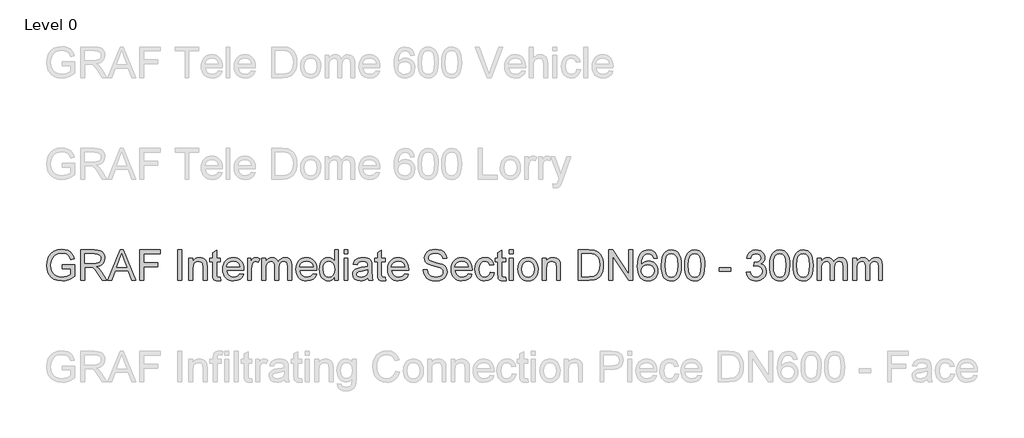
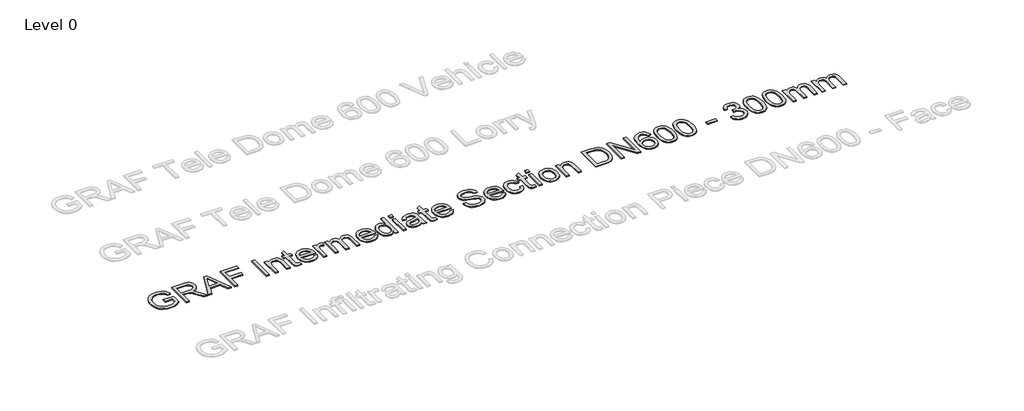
# One storey, part 17 of 25: 1 proxy.
"""IFC4 building model written with IfcOpenShell, lengths in millimetres."""

import ifcopenshell
import ifcopenshell.guid

model = None  # the IFC model being written
_history = None  # IfcOwnerHistory: only IFC2X3 demands one
_inside = {}  # id of a spatial element -> (the spatial element, [elements in it])
_under = {}  # id of a project, library or spatial element -> (it, [spatial elements below it])
_declared = {}  # id of a project -> (the project, [libraries it declares])
_typed = {}  # id of a type object -> (the type object, [elements of that type])
_made_of = {}  # id of a material, layer set ... -> (it, [elements and type objects made of it])


def new_model(schema):
    """Start an empty IFC model of exactly this schema.

    Asked for "IFC4X3", IfcOpenShell would pick the latest addendum, in which some entities
    have other attributes; the version numbers below select the first issue.
    IFC2X3 requires an IfcOwnerHistory on every rooted entity: one is made here for all.
    """
    global model, _history
    if schema == "IFC4X3":
        model = ifcopenshell.file(schema_version=(4, 3, 0, 0))
    else:
        model = ifcopenshell.file(schema=schema)
    _inside.clear()
    _under.clear()
    _declared.clear()
    _typed.clear()
    _made_of.clear()
    _history = None
    if model.schema == "IFC2X3":
        org = make("IfcOrganization", Name="unknown")
        user = make(
            "IfcPersonAndOrganization",
            ThePerson=make("IfcPerson", FamilyName="unknown"),
            TheOrganization=org,
        )
        app = make(
            "IfcApplication",
            ApplicationDeveloper=org,
            Version="unknown",
            ApplicationFullName="unknown",
            ApplicationIdentifier="unknown",
        )
        _history = make(
            "IfcOwnerHistory",
            OwningUser=user,
            OwningApplication=app,
            ChangeAction="ADDED",
            CreationDate=0,
        )
    return model


def make(cls, **values):
    """One entity of the class cls with the attributes given. An attribute that is None is left unset."""
    return model.create_entity(
        cls, **{name: value for name, value in values.items() if value is not None}
    )


def rooted(cls, **values):
    """An entity with a GlobalId (a new one), such as an element, a storey or a relation."""
    return make(cls, GlobalId=ifcopenshell.guid.new(), OwnerHistory=_history, **values)


def si_unit(unit_type, name, prefix=None):
    """IfcSIUnit, for example si_unit("LENGTHUNIT", "METRE", prefix="MILLI")."""
    return make("IfcSIUnit", UnitType=unit_type, Prefix=prefix, Name=name)


def assignment(units):
    """IfcUnitAssignment: the units of a project."""
    return None if units is None else make("IfcUnitAssignment", Units=units)


def point(xyz):
    """IfcCartesianPoint."""
    return None if xyz is None else make("IfcCartesianPoint", Coordinates=xyz)


def direction(xyz):
    """IfcDirection."""
    return None if xyz is None else make("IfcDirection", DirectionRatios=xyz)


def frame(location, z_axis=None, x_axis=None):
    """IfcAxis2Placement3D, a coordinate frame: its origin and axes. An axis left out is left unset."""
    return make(
        "IfcAxis2Placement3D",
        Location=point(location),
        Axis=direction(z_axis),
        RefDirection=direction(x_axis),
    )


def origin():
    """The frame at (0, 0, 0) with its axes left unset."""
    return frame((0.0, 0.0, 0.0))


def origin_with_axes():
    """The frame at (0, 0, 0) with the z axis (0, 0, 1) and the x axis (1, 0, 0) written out."""
    return frame((0.0, 0.0, 0.0), z_axis=(0.0, 0.0, 1.0), x_axis=(1.0, 0.0, 0.0))


def place(relative_to, where):
    """IfcLocalPlacement: puts the frame where relative to a parent placement (None: the world)."""
    return make(
        "IfcLocalPlacement", PlacementRelTo=relative_to, RelativePlacement=where
    )


def context(
    kind, dimensions, precision=None, world=None, true_north=None, identifier=None
):
    """IfcGeometricRepresentationContext, for example the 3D "Model" context."""
    return make(
        "IfcGeometricRepresentationContext",
        ContextIdentifier=identifier,
        ContextType=kind,
        CoordinateSpaceDimension=dimensions,
        Precision=precision,
        WorldCoordinateSystem=world,
        TrueNorth=true_north,
    )


def project(units=None, contexts=None):
    """IfcProject with its units and contexts."""
    return rooted(
        "IfcProject",
        Name="project",
        RepresentationContexts=contexts,
        UnitsInContext=assignment(units),
    )


def spatial(cls, under=None, at=None, **own):
    """A site, building, storey or space (cls), placed at a placement, below another one or the project."""
    s = rooted(cls, ObjectPlacement=at, **own)
    if under is not None:
        _under.setdefault(under.id(), (under, []))[1].append(s)
    return s


def polyline(points):
    """IfcPolyline through the points."""
    return make("IfcPolyline", Points=[point(p) for p in points])


def outline(outer, holes=None, kind="AREA"):
    """IfcArbitraryClosedProfileDef: a profile drawn as a closed curve; with holes, ...WithVoids."""
    if holes is None:
        return make("IfcArbitraryClosedProfileDef", ProfileType=kind, OuterCurve=outer)
    return make(
        "IfcArbitraryProfileDefWithVoids",
        ProfileType=kind,
        OuterCurve=outer,
        InnerCurves=holes,
    )


def extrude(swept, where, along, depth):
    """IfcExtrudedAreaSolid: the profile swept, set in the frame where, extruded along a direction by depth."""
    return make(
        "IfcExtrudedAreaSolid",
        SweptArea=swept,
        Position=where,
        ExtrudedDirection=direction(along),
        Depth=depth,
    )


def shape(context_of_items, identifier, shape_type, items):
    """IfcShapeRepresentation: the items that make up one representation, for example the "Body"."""
    return make(
        "IfcShapeRepresentation",
        ContextOfItems=context_of_items,
        RepresentationIdentifier=identifier,
        RepresentationType=shape_type,
        Items=items,
    )


def made_of(thing, what):
    """Note that an element or type object is made of a material, layer set ...; save() writes the relation."""
    if what is not None:
        _made_of.setdefault(what.id(), (what, []))[1].append(thing)
    return thing


def element(
    cls,
    number,
    at=None,
    inside=None,
    cuts=None,
    type_object=None,
    material=None,
    context=None,
    identifier="Body",
    shape_type=None,
    held_by="IfcProductDefinitionShape",
    body=None,
    shapes=None,
    **own,
):
    """One element of the class cls, such as IfcWall. Its Tag is "e" and its number.

    at: its placement. inside: the storey or other place that contains it. cuts: it is an
    opening in that element (IfcRelVoidsElement). A single representation is given by context,
    identifier, shape_type and body (its items); several are given by shapes. held_by: the class
    of the entity that holds the representations. save() writes the other relations.
    """
    e = rooted(cls, Tag="e%d" % number, ObjectPlacement=at, **own)
    if body is not None:
        shapes = [shape(context, identifier, shape_type, body)]
    if shapes is not None:
        e.Representation = make(held_by, Representations=shapes)
    if inside is not None:
        _inside.setdefault(inside.id(), (inside, []))[1].append(e)
    if cuts is not None:
        rooted(
            "IfcRelVoidsElement", RelatingBuildingElement=cuts, RelatedOpeningElement=e
        )
    if type_object is not None:
        _typed.setdefault(type_object.id(), (type_object, []))[1].append(e)
    return made_of(e, material)


def aggregate(whole, parts):
    """IfcRelAggregates: a whole, such as a stair, and the parts it consists of."""
    return rooted("IfcRelAggregates", RelatingObject=whole, RelatedObjects=parts)


def save(model, path):
    """Write the relations noted so far, then the file.

    IfcRelAggregates (storeys below a building ...), IfcRelContainedInSpatialStructure (elements
    in a storey), IfcRelDefinesByType, IfcRelAssociatesMaterial and IfcRelDeclares: one each for
    every whole, place, type object, material and project.
    """
    for whole, parts in _under.values():
        aggregate(whole, parts)
    for where, things in _inside.values():
        rooted(
            "IfcRelContainedInSpatialStructure",
            RelatedElements=things,
            RelatingStructure=where,
        )
    for kind, things in _typed.values():
        rooted("IfcRelDefinesByType", RelatedObjects=things, RelatingType=kind)
    for what, things in _made_of.values():
        rooted("IfcRelAssociatesMaterial", RelatedObjects=things, RelatingMaterial=what)
    for by, libraries in _declared.values():
        rooted("IfcRelDeclares", RelatingContext=by, RelatedDefinitions=libraries)
    model.write(path)


model = new_model("IFC4")

# Units and contexts
model_context = context("Model", 3, world=origin())
ifc_project = project(units=[si_unit("LENGTHUNIT", "METRE", prefix="MILLI")], contexts=[model_context])

# Site, building, storey
site = spatial("IfcSite", under=ifc_project)
building = spatial("IfcBuilding", under=site)
storey = spatial("IfcBuildingStorey", under=building, Name="Level 0", Elevation=0.0)

# Proxy
placement = place(None, origin())
element("IfcBuildingElementProxy", 1, Name="300mm Arial", ObjectType="300mm Arial", at=placement, inside=storey, context=model_context, shape_type="SweptSolid", body=[
    extrude(outline(polyline([(-15240.9940387, 3916.7454403), (-15240.9940387, 3954.4165566), (-15118.5629107, 3954.4165566), (-15118.5629107, 3841.7710897), (-15148.3153671, 3821.0777274), (-15179.0059225, 3806.2336889), (-15210.5610007, 3797.2941564), (-15242.9070251, 3794.3143123), (-15285.1674693, 3799.050793), (-15323.3628175, 3813.260235), (-15355.0926395, 3836.4459978), (-15377.9565055, 3868.1114405), (-15391.7796715, 3906.0952565), (-15396.3873935, 3948.2361391), (-15391.7980656, 3990.6805243), (-15378.0300819, 4030.1634594), (-15355.6536596, 4063.282036), (-15325.2390156, 4086.6333457), (-15288.1932987, 4100.4841028), (-15245.9236575, 4105.1010218), (-15214.8928112, 4102.4246803), (-15186.9889618, 4094.3956557), (-15163.4904994, 4081.5933623), (-15145.6758138, 4064.5972141), (-15132.4964413, 4042.5886738), (-15122.9039183, 4014.7492038), (-15157.6319786, 4004.9635427), (-15165.3850917, 4024.8199734), (-15174.8120678, 4039.8019677), (-15187.2832674, 4051.0959449), (-15204.169051, 4059.8883246), (-15224.3013932, 4065.5445103), (-15246.5122687, 4067.4299055), (-15272.5123287, 4065.3973575), (-15294.7415982, 4059.2997134), (-15313.1173039, 4049.9003284), (-15327.5566722, 4037.9625577), (-15346.9440533, 4008.9366683), (-15355.7732212, 3980.49939), (-15358.7162772, 3949.7812434), (-15355.175413, 3913.7563991), (-15344.5528204, 3884.1143073), (-15327.1703961, 3861.0665003), (-15303.3500369, 3844.8245102), (-15275.4737787, 3835.195199), (-15245.9236575, 3831.9854286), (-15219.831627, 3834.4042527), (-15194.3833899, 3841.6607251), (-15172.2828791, 3851.6579183), (-15156.234027, 3862.298905), (-15156.234027, 3916.7454403), (-15240.9940387, 3916.7454403)])), origin_with_axes(), (0.0, 0.0, 1.0), 10.0),
    extrude(outline(polyline([(-15057.3473467, 3799.0232018), (-15057.3473467, 4100.3921323), (-14927.4850024, 4100.3921323), (-14892.5821982, 4098.3595842), (-14867.1891434, 4092.2619402), (-14848.6294968, 4081.0047511), (-14834.2269167, 4063.4935682), (-14824.9838815, 4041.7793334), (-14821.9028698, 4017.912989), (-14827.0072325, 3988.2249119), (-14842.3203206, 3963.6136065), (-14853.9200997, 3953.5842236), (-14868.3019865, 3945.5689946), (-14905.4120827, 3935.5809984), (-14884.0013506, 3919.467767), (-14853.467145, 3880.6930048), (-14803.2144645, 3799.0232018), (-14846.9924219, 3799.0232018), (-14886.2086426, 3861.4895646), (-14914.5355562, 3902.8395009), (-14934.4379722, 3922.3740348), (-14952.3538253, 3929.5477337), (-14974.2060158, 3930.8721089), (-15019.6762304, 3930.8721089), (-15019.6762304, 3799.0232018), (-15057.3473467, 3799.0232018)]), holes=[polyline([(-15019.6762304, 3968.5432252), (-14935.3576771, 3968.5432252), (-14911.1418448, 3969.8767974), (-14892.3522719, 3973.8775141), (-14878.2072092, 3980.8120897), (-14867.9249074, 3990.9472387), (-14861.6617165, 4003.2069062), (-14859.5739861, 4016.5150374), (-14863.5563087, 4034.890743), (-14875.5032765, 4049.6979933), (-14896.058683, 4059.4652603), (-14925.8663217, 4062.721016), (-15019.6762304, 4062.721016), (-15019.6762304, 3968.5432252)])]), origin_with_axes(), (0.0, 0.0, 1.0), 10.0),
    extrude(outline(polyline([(-14791.0743586, 3799.0232018), (-14670.7769462, 4100.3921323), (-14638.6976362, 4100.3921323), (-14518.4002238, 3799.0232018), (-14558.2050557, 3799.0232018), (-14592.7123868, 3893.2009926), (-14716.835772, 3893.2009926), (-14751.2695268, 3799.0232018), (-14791.0743586, 3799.0232018)]), holes=[polyline([(-14703.003409, 3930.8721089), (-14606.4711735, 3930.8721089), (-14633.6208647, 4004.9635427), (-14654.7372912, 4062.721016), (-14673.499273, 4011.4382658), (-14703.003409, 3930.8721089)])]), origin_with_axes(), (0.0, 0.0, 1.0), 10.0),
    extrude(outline(polyline([(-14478.1539335, 3799.0232018), (-14478.1539335, 4100.3921323), (-14275.6716834, 4100.3921323), (-14275.6716834, 4062.721016), (-14440.4828172, 4062.721016), (-14440.4828172, 3973.2521147), (-14299.2161311, 3973.2521147), (-14299.2161311, 3935.5809984), (-14440.4828172, 3935.5809984), (-14440.4828172, 3799.0232018), (-14478.1539335, 3799.0232018)])), origin_with_axes(), (0.0, 0.0, 1.0), 10.0),
    extrude(outline(polyline([(-14101.4427705, 3799.0232018), (-14101.4427705, 4100.3921323), (-14063.7716542, 4100.3921323), (-14063.7716542, 3799.0232018), (-14101.4427705, 3799.0232018)])), origin_with_axes(), (0.0, 0.0, 1.0), 10.0),
    extrude(outline(polyline([(-13993.1383111, 3799.0232018), (-13993.1383111, 4020.3410101), (-13955.4671948, 4020.3410101), (-13955.4671948, 3989.4389225), (-13942.3797928, 4005.018725), (-13926.6620346, 4016.1471554), (-13908.3139201, 4022.8242136), (-13887.3354493, 4025.0498997), (-13868.7666056, 4023.2564749), (-13851.7612603, 4017.8762008), (-13837.5794094, 4009.5804618), (-13827.4810487, 3999.0406426), (-13816.1870714, 3971.3391284), (-13814.2005086, 3934.9188108), (-13814.2005086, 3799.0232018), (-13851.8716249, 3799.0232018), (-13851.8716249, 3929.8420393), (-13856.2126325, 3963.1721481), (-13862.2183061, 3973.0957649), (-13871.5533117, 3980.7936956), (-13883.5186736, 3985.7325114), (-13897.415416, 3987.3787834), (-13919.4791386, 3983.6815693), (-13938.2871056, 3972.5899271), (-13945.8033946, 3963.5354315), (-13951.1721725, 3951.1608009), (-13955.4671948, 3916.4511347), (-13955.4671948, 3799.0232018), (-13993.1383111, 3799.0232018)])), origin_with_axes(), (0.0, 0.0, 1.0), 10.0),
    extrude(outline(polyline([(-13682.3516016, 3830.4403242), (-13677.642712, 3797.9195558), (-13705.8224729, 3794.3143123), (-13723.9038729, 3795.8778108), (-13737.386748, 3800.5683062), (-13746.9148917, 3807.7971874), (-13753.1320974, 3816.9758432), (-13756.5534, 3832.7395867), (-13757.6938342, 3859.723731), (-13757.6938342, 3982.6698938), (-13785.9471714, 3982.6698938), (-13785.9471714, 4020.3410101), (-13757.6938342, 4020.3410101), (-13757.6938342, 4074.1253578), (-13720.0227179, 4096.2718539), (-13720.0227179, 4020.3410101), (-13682.3516016, 4020.3410101), (-13682.3516016, 3982.6698938), (-13720.0227179, 3982.6698938), (-13720.0227179, 3860.827377), (-13718.0361551, 3841.4032077), (-13711.5982202, 3834.5238144), (-13698.7591386, 3831.9854286), (-13682.3516016, 3830.4403242)])), origin_with_axes(), (0.0, 0.0, 1.0), 10.0),
    extrude(outline(polyline([(-13489.7285889, 3864.9476554), (-13452.7932366, 3860.2387658), (-13466.1013678, 3832.4084929), (-13487.3373559, 3811.6047661), (-13516.0229545, 3798.6369257), (-13551.6799169, 3794.3143123), (-13575.0542192, 3796.1790141), (-13595.8809386, 3801.7731197), (-13614.1600752, 3811.0966291), (-13629.8916291, 3824.1495421), (-13642.5421712, 3840.5685754), (-13651.5782727, 3859.9904455), (-13656.9999336, 3882.4151523), (-13658.8071539, 3907.842696), (-13656.9815395, 3934.1324631), (-13651.5046963, 3957.3044302), (-13642.3766243, 3977.3585975), (-13629.5973235, 3994.2949649), (-13613.9071564, 4007.7502488), (-13596.0464855, 4017.361166), (-13576.0153109, 4023.1277162), (-13553.8136325, 4025.0498997), (-13532.3270247, 4023.1323148), (-13512.8959575, 4017.3795601), (-13495.5204311, 4007.7916356), (-13480.2004452, 3994.3685413), (-13467.6947566, 3977.4689621), (-13458.762122, 3957.451583), (-13453.4025411, 3934.3164041), (-13451.6160142, 3908.0634252), (-13451.8367434, 3897.9098821), (-13621.1360376, 3897.9098821), (-13614.6153292, 3869.7117272), (-13599.4677881, 3848.9815768), (-13577.6064005, 3836.2344656), (-13550.9441529, 3831.9854286), (-13530.8945842, 3833.9535973), (-13514.0088006, 3839.8581033), (-13500.2868022, 3850.0668287), (-13489.7285889, 3864.9476554)]), holes=[polyline([(-13621.1360376, 3935.5809984), (-13489.2871305, 3935.5809984), (-13494.3822961, 3955.4834144), (-13504.3702923, 3969.7204476), (-13526.3328474, 3982.9641994), (-13553.9607853, 3987.3787834), (-13579.35384, 3983.8563132), (-13600.3507048, 3973.2889029), (-13614.946423, 3956.8169866), (-13621.1360376, 3935.5809984)])]), origin_with_axes(), (0.0, 0.0, 1.0), 10.0),
    extrude(outline(polyline([(-13413.9448979, 3799.0232018), (-13413.9448979, 4020.3410101), (-13380.9826711, 4020.3410101), (-13380.9826711, 3987.5995125), (-13368.8057771, 4006.5822235), (-13357.5853762, 4017.7658362), (-13346.3281872, 4023.2288838), (-13334.0409285, 4025.0498997), (-13315.2789468, 4022.1436319), (-13296.2226594, 4013.4248286), (-13308.8042237, 3979.6532615), (-13322.0479755, 3985.4474029), (-13335.2917273, 3987.3787834), (-13346.5397193, 3985.5209793), (-13356.5920948, 3979.947567), (-13364.7130899, 3971.081611), (-13370.1669405, 3959.3461753), (-13374.7470713, 3938.3033252), (-13376.2737816, 3915.3474887), (-13376.2737816, 3799.0232018), (-13413.9448979, 3799.0232018)])), origin_with_axes(), (0.0, 0.0, 1.0), 10.0),
    extrude(outline(polyline([(-13272.6782117, 3799.0232018), (-13272.6782117, 4020.3410101), (-13235.0070954, 4020.3410101), (-13235.0070954, 3983.9206926), (-13223.67633, 4000.6501263), (-13209.108203, 4013.7559224), (-13191.7993551, 4022.2264053), (-13172.2464271, 4025.0498997), (-13151.2955474, 4022.171223), (-13134.5017344, 4013.5351932), (-13121.9569583, 3999.7120272), (-13113.7531898, 3981.2719422), (-13100.0219944, 4000.4247986), (-13084.3594184, 4014.1054103), (-13066.765462, 4022.3137773), (-13047.2401251, 4025.0498997), (-13018.9224085, 4020.49736), (-12997.9807259, 4006.8397409), (-12985.0404768, 3983.7091605), (-12980.7270604, 3950.7377366), (-12980.7270604, 3799.0232018), (-13018.3981767, 3799.0232018), (-13018.3981767, 3934.5509288), (-13021.8930556, 3966.0048394), (-13026.8042803, 3974.6776575), (-13034.5481963, 3981.4926714), (-13044.5086013, 3985.9072554), (-13056.069293, 3987.3787834), (-13076.4775467, 3983.6079929), (-13093.1150099, 3972.2956216), (-13104.1790609, 3952.6691171), (-13107.8670779, 3923.9559274), (-13107.8670779, 3799.0232018), (-13145.5381942, 3799.0232018), (-13145.5381942, 3938.7447836), (-13147.717895, 3960.0451511), (-13154.2569975, 3975.2386775), (-13165.7625069, 3984.3437569), (-13182.8414285, 3987.3787834), (-13197.3543732, 3985.3554324), (-13210.7268838, 3979.2853795), (-13221.7633436, 3969.3157774), (-13229.2681363, 3955.593779), (-13233.5723557, 3936.5558857), (-13235.0070954, 3910.6385992), (-13235.0070954, 3799.0232018), (-13272.6782117, 3799.0232018)])), origin_with_axes(), (0.0, 0.0, 1.0), 10.0),
    extrude(outline(polyline([(-12769.2684895, 3864.9476554), (-12732.3331372, 3860.2387658), (-12745.6412684, 3832.4084929), (-12766.8772566, 3811.6047661), (-12795.5628551, 3798.6369257), (-12831.2198175, 3794.3143123), (-12854.5941198, 3796.1790141), (-12875.4208393, 3801.7731197), (-12893.6999759, 3811.0966291), (-12909.4315297, 3824.1495421), (-12922.0820718, 3840.5685754), (-12931.1181733, 3859.9904455), (-12936.5398342, 3882.4151523), (-12938.3470545, 3907.842696), (-12936.5214401, 3934.1324631), (-12931.0445969, 3957.3044302), (-12921.9165249, 3977.3585975), (-12909.1372241, 3994.2949649), (-12893.447057, 4007.7502488), (-12875.5863861, 4017.361166), (-12855.5552115, 4023.1277162), (-12833.3535331, 4025.0498997), (-12811.8669253, 4023.1323148), (-12792.4358582, 4017.3795601), (-12775.0603317, 4007.7916356), (-12759.7403459, 3994.3685413), (-12747.2346573, 3977.4689621), (-12738.3020226, 3957.451583), (-12732.9424418, 3934.3164041), (-12731.1559148, 3908.0634252), (-12731.376644, 3897.9098821), (-12900.6759382, 3897.9098821), (-12894.1552299, 3869.7117272), (-12879.0076887, 3848.9815768), (-12857.1463011, 3836.2344656), (-12830.4840535, 3831.9854286), (-12810.4344848, 3833.9535973), (-12793.5487012, 3839.8581033), (-12779.8267028, 3850.0668287), (-12769.2684895, 3864.9476554)]), holes=[polyline([(-12900.6759382, 3935.5809984), (-12768.8270311, 3935.5809984), (-12773.9221968, 3955.4834144), (-12783.910193, 3969.7204476), (-12805.8727481, 3982.9641994), (-12833.5006859, 3987.3787834), (-12858.8937406, 3983.8563132), (-12879.8906055, 3973.2889029), (-12894.4863237, 3956.8169866), (-12900.6759382, 3935.5809984)])]), origin_with_axes(), (0.0, 0.0, 1.0), 10.0),
    extrude(outline(polyline([(-12556.9270019, 3799.0232018), (-12556.9270019, 3834.5606026), (-12568.1979866, 3816.9528506), (-12581.8510071, 3804.3758849), (-12597.8860636, 3796.8297054), (-12616.3031559, 3794.3143123), (-12640.656944, 3797.956344), (-12662.9505929, 3808.8824393), (-12681.8229393, 3826.3292429), (-12695.9128197, 3849.5333998), (-12704.6868053, 3877.5568107), (-12707.6114672, 3909.4613768), (-12704.9167315, 3940.9704697), (-12696.8325247, 3969.426142), (-12683.3680437, 3993.209713), (-12664.5324855, 4010.7025018), (-12641.751393, 4021.4630502), (-12616.4503087, 4025.0498997), (-12598.0194208, 4022.4839227), (-12581.7222484, 4014.785992), (-12567.9082795, 4002.986177), (-12556.9270019, 3988.1145473), (-12556.9270019, 4100.3921323), (-12519.2558856, 4100.3921323), (-12519.2558856, 3799.0232018), (-12556.9270019, 3799.0232018)]), holes=[polyline([(-12669.9403508, 3909.6085296), (-12665.6913138, 3875.5334598), (-12652.9442027, 3851.2992333), (-12634.4213442, 3836.8138798), (-12612.8450652, 3831.9854286), (-12591.2779832, 3836.5931506), (-12573.2241743, 3850.4163165), (-12561.001295, 3873.7124439), (-12556.9270019, 3906.73905), (-12561.0748714, 3942.8466678), (-12573.5184799, 3967.8810376), (-12592.0321413, 3982.5043469), (-12614.3901696, 3987.3787834), (-12636.1871778, 3982.697485), (-12654.0478487, 3968.6535898), (-12665.9672253, 3944.529728), (-12669.9403508, 3909.6085296)])]), origin_with_axes(), (0.0, 0.0, 1.0), 10.0),
    extrude(outline(polyline([(-12462.7492112, 4062.721016), (-12462.7492112, 4100.3921323), (-12425.0780949, 4100.3921323), (-12425.0780949, 4062.721016), (-12462.7492112, 4062.721016)])), origin_with_axes(), (0.0, 0.0, 1.0), 10.0),
    extrude(outline(polyline([(-12462.7492112, 3799.0232018), (-12462.7492112, 4020.3410101), (-12425.0780949, 4020.3410101), (-12425.0780949, 3799.0232018), (-12462.7492112, 3799.0232018)])), origin_with_axes(), (0.0, 0.0, 1.0), 10.0),
    extrude(outline(polyline([(-12227.3047342, 3827.2765391), (-12245.3033609, 3811.8438894), (-12263.8354164, 3801.7455286), (-12283.3239651, 3796.1721164), (-12304.1920712, 3794.3143123), (-12335.673573, 3798.7840785), (-12358.8961239, 3812.1933772), (-12373.2159306, 3832.5556457), (-12377.9891995, 3857.8843211), (-12376.1865777, 3873.5009117), (-12370.7787124, 3887.6827627), (-12362.4369881, 3899.8228685), (-12351.8327896, 3909.314224), (-12325.4556506, 3921.675059), (-12292.8613058, 3927.3404417), (-12254.3440609, 3933.3001301), (-12227.5254634, 3940.289888), (-12227.3047342, 3948.6775975), (-12229.8983023, 3965.4898046), (-12237.6790065, 3976.4894763), (-12255.0798249, 3984.6564566), (-12279.3232484, 3987.3787834), (-12301.7640501, 3985.5669645), (-12317.4358231, 3980.131508), (-12328.122795, 3970.0791325), (-12335.6091936, 3954.4165566), (-12373.2803099, 3959.1254461), (-12366.7412075, 3979.7268379), (-12356.9831375, 3995.9136456), (-12343.0955922, 4008.2928748), (-12324.1680636, 4017.4715306), (-12301.019089, 4023.1553074), (-12274.467206, 4025.0498997), (-12249.0005749, 4023.3760366), (-12228.8130504, 4018.3544473), (-12213.5919329, 4010.8036694), (-12203.0245226, 4001.5422402), (-12196.0163706, 3990.0919131), (-12191.4730279, 3975.9744415), (-12189.6336179, 3943.0122147), (-12189.6336179, 3896.1440485), (-12187.7206316, 3830.6978416), (-12180.2158389, 3799.0232018), (-12217.8869552, 3799.0232018), (-12227.3047342, 3827.2765391)]), holes=[polyline([(-12227.3047342, 3902.6187717), (-12288.0788399, 3891.067277), (-12320.4892436, 3884.9604359), (-12335.1677352, 3875.027622), (-12340.3180832, 3860.5330714), (-12337.512983, 3849.3310647), (-12329.0976823, 3840.1524089), (-12315.2561222, 3834.0271737), (-12296.1722437, 3831.9854286), (-12275.938734, 3834.2387058), (-12258.059669, 3840.9985375), (-12243.5651184, 3850.9589425), (-12233.4851518, 3862.8139398), (-12229.0153855, 3875.027622), (-12227.5254634, 3891.9501938), (-12227.3047342, 3902.6187717)])]), origin_with_axes(), (0.0, 0.0, 1.0), 10.0),
    extrude(outline(polyline([(-12057.7847109, 3830.4403242), (-12053.0758213, 3797.9195558), (-12081.2555822, 3794.3143123), (-12099.3369822, 3795.8778108), (-12112.8198573, 3800.5683062), (-12122.348001, 3807.7971874), (-12128.5652067, 3816.9758432), (-12131.9865093, 3832.7395867), (-12133.1269435, 3859.723731), (-12133.1269435, 3982.6698938), (-12161.3802807, 3982.6698938), (-12161.3802807, 4020.3410101), (-12133.1269435, 4020.3410101), (-12133.1269435, 4074.1253578), (-12095.4558272, 4096.2718539), (-12095.4558272, 4020.3410101), (-12057.7847109, 4020.3410101), (-12057.7847109, 3982.6698938), (-12095.4558272, 3982.6698938), (-12095.4558272, 3860.827377), (-12093.4692644, 3841.4032077), (-12087.0313295, 3834.5238144), (-12074.1922479, 3831.9854286), (-12057.7847109, 3830.4403242)])), origin_with_axes(), (0.0, 0.0, 1.0), 10.0),
    extrude(outline(polyline([(-11865.1616982, 3864.9476554), (-11828.2263459, 3860.2387658), (-11841.5344771, 3832.4084929), (-11862.7704652, 3811.6047661), (-11891.4560638, 3798.6369257), (-11927.1130262, 3794.3143123), (-11950.4873285, 3796.1790141), (-11971.3140479, 3801.7731197), (-11989.5931845, 3811.0966291), (-12005.3247384, 3824.1495421), (-12017.9752805, 3840.5685754), (-12027.011382, 3859.9904455), (-12032.4330429, 3882.4151523), (-12034.2402632, 3907.842696), (-12032.4146488, 3934.1324631), (-12026.9378056, 3957.3044302), (-12017.8097336, 3977.3585975), (-12005.0304328, 3994.2949649), (-11989.3402657, 4007.7502488), (-11971.4795948, 4017.361166), (-11951.4484202, 4023.1277162), (-11929.2467418, 4025.0498997), (-11907.760134, 4023.1323148), (-11888.3290668, 4017.3795601), (-11870.9535404, 4007.7916356), (-11855.6335545, 3994.3685413), (-11843.1278659, 3977.4689621), (-11834.1952313, 3957.451583), (-11828.8356504, 3934.3164041), (-11827.0491235, 3908.0634252), (-11827.2698527, 3897.9098821), (-11996.5691469, 3897.9098821), (-11990.0484385, 3869.7117272), (-11974.9008974, 3848.9815768), (-11953.0395098, 3836.2344656), (-11926.3772622, 3831.9854286), (-11906.3276935, 3833.9535973), (-11889.4419099, 3839.8581033), (-11875.7199115, 3850.0668287), (-11865.1616982, 3864.9476554)]), holes=[polyline([(-11996.5691469, 3935.5809984), (-11864.7202398, 3935.5809984), (-11869.8154054, 3955.4834144), (-11879.8034016, 3969.7204476), (-11901.7659567, 3982.9641994), (-11929.3938946, 3987.3787834), (-11954.7869493, 3983.8563132), (-11975.7838141, 3973.2889029), (-11990.3795323, 3956.8169866), (-11996.5691469, 3935.5809984)])]), origin_with_axes(), (0.0, 0.0, 1.0), 10.0),
    extrude(outline(polyline([(-11681.0735478, 3902.6187717), (-11643.4024315, 3902.6187717), (-11639.0798181, 3881.7138773), (-11631.2623257, 3864.9108672), (-11619.0670375, 3851.5751448), (-11601.6110369, 3841.0721139), (-11580.2738811, 3834.2570999), (-11556.4351278, 3831.9854286), (-11535.44746, 3833.7052769), (-11517.0717544, 3838.8648219), (-11502.1817306, 3847.0318022), (-11491.6511085, 3857.7739565), (-11485.3879175, 3870.1072003), (-11483.3001872, 3883.0474495), (-11484.8636857, 3895.6566049), (-11489.5541811, 3906.555109), (-11499.0823248, 3915.8533264), (-11515.158768, 3923.6616218), (-11570.0099735, 3938.0458078), (-11606.0164237, 3947.5647544), (-11629.0550337, 3956.6238486), (-11647.8078184, 3969.2973833), (-11661.0975555, 3984.6564566), (-11669.0162154, 4002.3699747), (-11671.6557687, 4022.1068437), (-11668.390816, 4044.1705664), (-11658.5959579, 4064.7443669), (-11642.5287118, 4082.1819735), (-11620.446595, 4094.8371141), (-11593.9406973, 4102.5350449), (-11564.6021081, 4105.1010218), (-11532.8171038, 4102.4154832), (-11505.0052249, 4094.3588675), (-11482.159753, 4081.0967216), (-11465.2739694, 4062.7945924), (-11454.5869975, 4040.592914), (-11450.3379604, 4015.6321206), (-11488.0090767, 4015.6321206), (-11494.9252582, 4038.1097105), (-11509.3462325, 4054.3333065), (-11531.8790047, 4064.1557557), (-11563.1305802, 4067.4299055), (-11595.1179196, 4064.1925439), (-11617.0620806, 4054.4804593), (-11629.7540095, 4040.1882438), (-11633.9846524, 4023.2104897), (-11630.9864142, 4008.7343332), (-11621.9916994, 3997.090868), (-11600.7281201, 3986.6798076), (-11560.4818298, 3976.0480179), (-11518.9479525, 3965.9496571), (-11493.8216123, 3957.1388833), (-11472.3465008, 3943.4720672), (-11457.3645065, 3926.6046777), (-11448.5629298, 3906.7206559), (-11445.6290709, 3884.0039427), (-11449.0043882, 3860.7813918), (-11459.1303401, 3838.9383983), (-11475.5930594, 3820.1396283), (-11497.9786788, 3806.0497479), (-11524.8984438, 3797.2481712), (-11554.9635999, 3794.3143123), (-11591.871361, 3797.4780974), (-11622.2492168, 3806.9694529), (-11646.446655, 3822.8251669), (-11664.8131636, 3845.0820276), (-11676.6037816, 3872.1949307), (-11681.0735478, 3902.6187717)])), origin_with_axes(), (0.0, 0.0, 1.0), 10.0),
    extrude(outline(polyline([(-11238.8793896, 3864.9476554), (-11201.9440373, 3860.2387658), (-11215.2521685, 3832.4084929), (-11236.4881566, 3811.6047661), (-11265.1737552, 3798.6369257), (-11300.8307176, 3794.3143123), (-11324.2050199, 3796.1790141), (-11345.0317393, 3801.7731197), (-11363.310876, 3811.0966291), (-11379.0424298, 3824.1495421), (-11391.6929719, 3840.5685754), (-11400.7290734, 3859.9904455), (-11406.1507343, 3882.4151523), (-11407.9579546, 3907.842696), (-11406.1323402, 3934.1324631), (-11400.655497, 3957.3044302), (-11391.527425, 3977.3585975), (-11378.7481242, 3994.2949649), (-11363.0579571, 4007.7502488), (-11345.1972862, 4017.361166), (-11325.1661116, 4023.1277162), (-11302.9644332, 4025.0498997), (-11281.4778254, 4023.1323148), (-11262.0467583, 4017.3795601), (-11244.6712318, 4007.7916356), (-11229.3512459, 3994.3685413), (-11216.8455574, 3977.4689621), (-11207.9129227, 3957.451583), (-11202.5533418, 3934.3164041), (-11200.7668149, 3908.0634252), (-11200.9875441, 3897.9098821), (-11370.2868383, 3897.9098821), (-11363.7661299, 3869.7117272), (-11348.6185888, 3848.9815768), (-11326.7572012, 3836.2344656), (-11300.0949536, 3831.9854286), (-11280.0453849, 3833.9535973), (-11263.1596013, 3839.8581033), (-11249.4376029, 3850.0668287), (-11238.8793896, 3864.9476554)]), holes=[polyline([(-11370.2868383, 3935.5809984), (-11238.4379312, 3935.5809984), (-11243.5330968, 3955.4834144), (-11253.521093, 3969.7204476), (-11275.4836481, 3982.9641994), (-11303.111586, 3987.3787834), (-11328.5046407, 3983.8563132), (-11349.5015056, 3973.2889029), (-11364.0972237, 3956.8169866), (-11370.2868383, 3935.5809984)])]), origin_with_axes(), (0.0, 0.0, 1.0), 10.0),
    extrude(outline(polyline([(-11021.8290125, 3879.074324), (-10984.1578961, 3874.3654344), (-10994.6609271, 3840.8605817), (-11014.3977961, 3815.5411034), (-11041.5106992, 3799.6210101), (-11074.1418322, 3794.3143123), (-11095.269755, 3796.1652186), (-11114.2133785, 3801.7179374), (-11130.9727026, 3810.9724689), (-11145.5477274, 3823.9288129), (-11157.3452432, 3840.3432477), (-11165.7720401, 3859.9720514), (-11170.8281183, 3882.815224), (-11172.5134777, 3908.8727656), (-11169.6348011, 3942.3960124), (-11160.9987712, 3971.449493), (-11146.4674324, 3994.9111672), (-11125.9028289, 4011.658995), (-11101.3007205, 4021.7021735), (-11074.656867, 4025.0498997), (-11042.8258773, 4020.4513747), (-11017.3776403, 4006.6557999), (-10999.1214963, 3984.3989392), (-10988.8667857, 3954.4165566), (-11026.537902, 3949.707667), (-11033.3713101, 3966.1427952), (-11044.0122968, 3977.9242161), (-11057.8722509, 3985.0151415), (-11074.3625614, 3987.3787834), (-11098.7071524, 3982.7250761), (-11118.0301542, 3968.7639544), (-11130.6393096, 3944.7412601), (-11134.8423614, 3909.9028352), (-11130.7312801, 3874.5953607), (-11118.3980362, 3850.4898929), (-11099.4245223, 3836.6115447), (-11075.392631, 3831.9854286), (-11055.8856882, 3834.8733023), (-11039.8920184, 3843.5369232), (-11028.2577503, 3858.1970207), (-11021.8290125, 3879.074324)])), origin_with_axes(), (0.0, 0.0, 1.0), 10.0),
    extrude(outline(polyline([(-10871.1445472, 3830.4403242), (-10866.4356577, 3797.9195558), (-10894.6154185, 3794.3143123), (-10912.6968186, 3795.8778108), (-10926.1796937, 3800.5683062), (-10935.7078374, 3807.7971874), (-10941.9250431, 3816.9758432), (-10945.3463457, 3832.7395867), (-10946.4867798, 3859.723731), (-10946.4867798, 3982.6698938), (-10974.7401171, 3982.6698938), (-10974.7401171, 4020.3410101), (-10946.4867798, 4020.3410101), (-10946.4867798, 4074.1253578), (-10908.8156635, 4096.2718539), (-10908.8156635, 4020.3410101), (-10871.1445472, 4020.3410101), (-10871.1445472, 3982.6698938), (-10908.8156635, 3982.6698938), (-10908.8156635, 3860.827377), (-10906.8291008, 3841.4032077), (-10900.3911658, 3834.5238144), (-10887.5520842, 3831.9854286), (-10871.1445472, 3830.4403242)])), origin_with_axes(), (0.0, 0.0, 1.0), 10.0),
    extrude(outline(polyline([(-10833.4734309, 4062.721016), (-10833.4734309, 4100.3921323), (-10795.8023146, 4100.3921323), (-10795.8023146, 4062.721016), (-10833.4734309, 4062.721016)])), origin_with_axes(), (0.0, 0.0, 1.0), 10.0),
    extrude(outline(polyline([(-10833.4734309, 3799.0232018), (-10833.4734309, 4020.3410101), (-10795.8023146, 4020.3410101), (-10795.8023146, 3799.0232018), (-10833.4734309, 3799.0232018)])), origin_with_axes(), (0.0, 0.0, 1.0), 10.0),
    extrude(outline(polyline([(-10748.7134192, 3909.682106), (-10746.6762727, 3938.3447119), (-10740.564833, 3963.0433894), (-10730.3791003, 3983.7781383), (-10716.1190745, 4000.5489588), (-10701.7624796, 4011.2681204), (-10685.9159627, 4018.9246644), (-10668.5795236, 4023.5185909), (-10649.7531625, 4025.0498997), (-10628.9701291, 4023.1851978), (-10610.1782569, 4017.5910922), (-10593.377546, 4008.2675829), (-10578.5679965, 3995.2146698), (-10566.4807737, 3978.8738115), (-10557.8470431, 3959.6864662), (-10552.6668047, 3937.6526339), (-10550.9400586, 3912.7723147), (-10553.9934792, 3874.7149223), (-10563.1537409, 3845.7442152), (-10578.1541292, 3824.0483745), (-10598.7279298, 3807.8155815), (-10623.1644913, 3797.6896296), (-10649.7531625, 3794.3143123), (-10670.8396986, 3796.1721164), (-10689.8063148, 3801.7455286), (-10706.6530109, 3811.034549), (-10721.379787, 3824.0391775), (-10733.3382511, 3840.538685), (-10741.8800112, 3860.3123422), (-10747.0050672, 3883.3601492), (-10748.7134192, 3909.682106)]), holes=[polyline([(-10711.0423029, 3909.7556824), (-10706.6829013, 3875.6622185), (-10693.6046964, 3851.3728097), (-10673.9230096, 3836.8322739), (-10649.7531625, 3831.9854286), (-10625.69368, 3836.859865), (-10606.0487815, 3851.4831743), (-10592.9705766, 3876.0944798), (-10588.6111749, 3910.9329048), (-10592.9981677, 3944.0330873), (-10606.1591461, 3967.9914022), (-10625.8316358, 3982.5319381), (-10649.7531625, 3987.3787834), (-10673.9230096, 3982.5503322), (-10693.6046964, 3968.0649786), (-10706.6829013, 3943.8307522), (-10711.0423029, 3909.7556824)])]), origin_with_axes(), (0.0, 0.0, 1.0), 10.0),
    extrude(outline(polyline([(-10508.5600528, 3799.0232018), (-10508.5600528, 4020.3410101), (-10470.8889365, 4020.3410101), (-10470.8889365, 3989.4389225), (-10457.8015345, 4005.018725), (-10442.0837763, 4016.1471554), (-10423.7356617, 4022.8242136), (-10402.757191, 4025.0498997), (-10384.1883473, 4023.2564749), (-10367.183002, 4017.8762008), (-10353.0011511, 4009.5804618), (-10342.9027904, 3999.0406426), (-10331.6088131, 3971.3391284), (-10329.6222503, 3934.9188108), (-10329.6222503, 3799.0232018), (-10367.2933666, 3799.0232018), (-10367.2933666, 3929.8420393), (-10371.6343742, 3963.1721481), (-10377.6400477, 3973.0957649), (-10386.9750534, 3980.7936956), (-10398.9404153, 3985.7325114), (-10412.8371576, 3987.3787834), (-10434.9008803, 3983.6815693), (-10453.7088473, 3972.5899271), (-10461.2251363, 3963.5354315), (-10466.5939142, 3951.1608009), (-10470.8889365, 3916.4511347), (-10470.8889365, 3799.0232018), (-10508.5600528, 3799.0232018)])), origin_with_axes(), (0.0, 0.0, 1.0), 10.0),
    extrude(outline(polyline([(-10155.3933374, 3799.0232018), (-10155.3933374, 4100.3921323), (-10051.4298856, 4100.3921323), (-9997.6455379, 4096.0511247), (-9973.6228436, 4087.6818093), (-9953.3525457, 4074.4932398), (-9932.5120306, 4051.5374033), (-9917.6679921, 4022.9897605), (-9908.7836419, 3989.4021343), (-9905.8221919, 3951.3263478), (-9907.8271488, 3918.9803234), (-9913.8420194, 3890.515454), (-9923.0022811, 3866.2812276), (-9934.4434111, 3846.627132), (-9947.6135865, 3831.1117089), (-9961.9609843, 3819.2934998), (-9978.4329007, 3810.5287112), (-9997.9766317, 3804.1735498), (-10046.4266904, 3799.0232018), (-10155.3933374, 3799.0232018)]), holes=[polyline([(-10117.7222211, 3836.6943181), (-10051.0620036, 3836.6943181), (-10023.489248, 3838.0554815), (-10002.5751566, 3842.1389717), (-9986.793019, 3848.7056653), (-9974.616125, 3857.5164391), (-9961.528723, 3873.8228085), (-9951.6970767, 3894.930038), (-9945.5442503, 3920.930098), (-9943.4933082, 3951.914959), (-9947.512419, 3992.9705897), (-9959.5697514, 4023.2840661), (-9977.384437, 4044.106187), (-9998.6756075, 4056.6877512), (-10020.343857, 4061.2126998), (-10052.0920732, 4062.721016), (-10117.7222211, 4062.721016), (-10117.7222211, 3836.6943181)])]), origin_with_axes(), (0.0, 0.0, 1.0), 10.0),
    extrude(outline(polyline([(-9854.024407, 3799.0232018), (-9854.024407, 4100.3921323), (-9813.7045403, 4100.3921323), (-9656.2510464, 3861.6367174), (-9656.2510464, 4100.3921323), (-9618.57993, 4100.3921323), (-9618.57993, 3799.0232018), (-9658.8997967, 3799.0232018), (-9816.3532907, 4037.8521931), (-9816.3532907, 3799.0232018), (-9854.024407, 3799.0232018)])), origin_with_axes(), (0.0, 0.0, 1.0), 10.0),
    extrude(outline(polyline([(-9373.7176741, 4020.3410101), (-9411.3887904, 4015.6321206), (-9417.4588433, 4034.3021318), (-9425.6626118, 4047.049243), (-9442.7507305, 4058.8030727), (-9463.4073045, 4062.721016), (-9480.9184875, 4060.4401476), (-9497.3996008, 4053.5975425), (-9511.5538606, 4039.1857653), (-9523.1145523, 4019.3477287), (-9530.9228476, 3991.2875296), (-9533.8199184, 3952.2092646), (-9518.7091654, 3969.8400092), (-9500.6001742, 3982.2652236), (-9480.5046202, 3989.6320606), (-9459.4341789, 3992.0876729), (-9441.3343848, 3990.4092113), (-9424.6325422, 3985.3738265), (-9409.3286512, 3976.9815185), (-9395.4227118, 3965.2322872), (-9383.8666186, 3950.8251086), (-9375.6122663, 3934.4589583), (-9370.659655, 3916.1338365), (-9369.0087845, 3895.849743), (-9372.1173874, 3868.8747957), (-9381.443196, 3843.868017), (-9396.2136581, 3822.65962), (-9415.6562215, 3807.0798175), (-9438.8879695, 3797.5056886), (-9465.0259853, 3794.3143123), (-9487.4828818, 3796.4296338), (-9507.7646761, 3802.7755982), (-9525.871368, 3813.3522055), (-9541.8029577, 3828.1594558), (-9554.7914913, 3847.8227485), (-9564.0690154, 3872.9674829), (-9569.6355299, 3903.593659), (-9571.4910347, 3939.7012768), (-9569.4308955, 3980.1820918), (-9563.250478, 4014.7308097), (-9552.9497821, 4043.3474304), (-9538.5288079, 4066.0319539), (-9522.8984216, 4081.0645319), (-9504.7756348, 4091.8020877), (-9484.1604475, 4098.2446211), (-9461.0528597, 4100.3921323), (-9427.9986624, 4095.0762374), (-9401.5295529, 4079.1285529), (-9382.9883003, 4053.7998776), (-9373.7176741, 4020.3410101)]), holes=[polyline([(-9533.8199184, 3896.4383541), (-9531.6402175, 3879.7457086), (-9525.1011151, 3863.8072212), (-9514.947572, 3850.1036169), (-9501.9245494, 3840.1156207), (-9486.2067911, 3834.0179766), (-9467.9690412, 3831.9854286), (-9443.1094154, 3836.1976774), (-9423.5656844, 3848.834424), (-9410.9013467, 3868.7000517), (-9406.6799008, 3894.5989442), (-9410.8461644, 3919.45857), (-9423.3449552, 3938.4136898), (-9443.21978, 3950.4158399), (-9469.5141456, 3954.4165566), (-9494.3369832, 3950.4158399), (-9515.0947248, 3938.4136898), (-9529.13862, 3919.9184225), (-9533.8199184, 3896.4383541)])]), origin_with_axes(), (0.0, 0.0, 1.0), 10.0),
    extrude(outline(polyline([(-9336.0465578, 3947.2796459), (-9333.2782457, 3995.5181725), (-9324.9733097, 4033.9894321), (-9311.2145231, 4063.282036), (-9292.0846593, 4083.9845953), (-9267.4457627, 4096.290248), (-9237.1598775, 4100.3921323), (-9213.9465236, 4097.9641111), (-9193.1611908, 4090.6800476), (-9175.7787666, 4078.8250503), (-9162.774138, 4062.6842278), (-9152.9516888, 4042.3955357), (-9145.1158023, 4018.0969299), (-9139.9838484, 3987.2408276), (-9138.2731971, 3947.2796459), (-9141.013918, 3899.3170308), (-9149.2360806, 3860.9377416), (-9162.9120938, 3831.6175466), (-9182.0143664, 3810.8322139), (-9206.7084453, 3798.4437877), (-9237.1598775, 3794.3143123), (-9257.908422, 3796.107737), (-9276.3025217, 3801.4880112), (-9292.3421767, 3810.4551348), (-9306.0273869, 3823.0091079), (-9319.1607742, 3845.7028285), (-9328.5417651, 3873.9791583), (-9334.1703596, 3907.8380975), (-9336.0465578, 3947.2796459)]), holes=[polyline([(-9298.3754414, 3947.3532223), (-9293.9608575, 3888.0966299), (-9288.4426276, 3867.8286312), (-9280.7171057, 3853.8008309), (-9260.9986307, 3837.4392792), (-9237.1598775, 3831.9854286), (-9213.3211242, 3837.4576733), (-9193.6026492, 3853.8744073), (-9185.8771273, 3867.9252003), (-9180.3588974, 3888.1886004), (-9175.9443135, 3947.3532223), (-9180.2117446, 4005.2762424), (-9185.5460335, 4025.4775625), (-9193.014038, 4039.8387559), (-9212.6957248, 4057.0004509), (-9237.6013358, 4062.721016), (-9261.1825717, 4057.6810326), (-9280.1284945, 4042.5610826), (-9288.1115338, 4026.9260978), (-9293.8137047, 4005.8464595), (-9298.3754414, 3947.3532223)])]), origin_with_axes(), (0.0, 0.0, 1.0), 10.0),
    extrude(outline(polyline([(-9105.3109704, 3947.2796459), (-9102.5426584, 3995.5181725), (-9094.2377223, 4033.9894321), (-9080.4789357, 4063.282036), (-9061.349072, 4083.9845953), (-9036.7101753, 4096.290248), (-9006.4242901, 4100.3921323), (-8983.2109362, 4097.9641111), (-8962.4256035, 4090.6800476), (-8945.0431792, 4078.8250503), (-8932.0385507, 4062.6842278), (-8922.2161014, 4042.3955357), (-8914.3802149, 4018.0969299), (-8909.248261, 3987.2408276), (-8907.5376098, 3947.2796459), (-8910.2783306, 3899.3170308), (-8918.5004932, 3860.9377416), (-8932.1765064, 3831.6175466), (-8951.278779, 3810.8322139), (-8975.9728579, 3798.4437877), (-9006.4242901, 3794.3143123), (-9027.1728346, 3796.107737), (-9045.5669344, 3801.4880112), (-9061.6065894, 3810.4551348), (-9075.2917996, 3823.0091079), (-9088.4251868, 3845.7028285), (-9097.8061777, 3873.9791583), (-9103.4347722, 3907.8380975), (-9105.3109704, 3947.2796459)]), holes=[polyline([(-9067.6398541, 3947.3532223), (-9063.2252701, 3888.0966299), (-9057.7070402, 3867.8286312), (-9049.9815183, 3853.8008309), (-9030.2630434, 3837.4392792), (-9006.4242901, 3831.9854286), (-8982.5855368, 3837.4576733), (-8962.8670618, 3853.8744073), (-8955.1415399, 3867.9252003), (-8949.62331, 3888.1886004), (-8945.2087261, 3947.3532223), (-8949.4761572, 4005.2762424), (-8954.8104462, 4025.4775625), (-8962.2784507, 4039.8387559), (-8981.9601374, 4057.0004509), (-9006.8657485, 4062.721016), (-9030.4469844, 4057.6810326), (-9049.3929071, 4042.5610826), (-9057.3759464, 4026.9260978), (-9063.0781173, 4005.8464595), (-9067.6398541, 3947.3532223)])]), origin_with_axes(), (0.0, 0.0, 1.0), 10.0),
    extrude(outline(polyline([(-8766.2709236, 3888.492103), (-8766.2709236, 3926.1632194), (-8648.5486852, 3926.1632194), (-8648.5486852, 3888.492103), (-8766.2709236, 3888.492103)])), origin_with_axes(), (0.0, 0.0, 1.0), 10.0),
    extrude(outline(polyline([(-8497.8642199, 3879.074324), (-8460.1931036, 3883.7832135), (-8451.7594089, 3860.1100071), (-8439.4077709, 3844.1255344), (-8422.5311844, 3835.020455), (-8400.522644, 3831.9854286), (-8374.697328, 3836.1608892), (-8354.7581238, 3848.6872712), (-8342.0110127, 3867.3756765), (-8337.7619756, 3890.0372074), (-8341.9742245, 3911.5491071), (-8354.610971, 3928.9959107), (-8373.7408348, 3940.5566024), (-8397.4324353, 3944.4101663), (-8423.8463625, 3940.289888), (-8419.6525078, 3977.9610043), (-8413.619243, 3977.5195459), (-8391.0496826, 3980.2234785), (-8370.8713552, 3988.3352765), (-8356.634322, 4002.057275), (-8351.8886443, 4021.5918089), (-8355.3283409, 4037.8613901), (-8365.6474309, 4051.0591567), (-8381.3927803, 4059.8055512), (-8401.1112552, 4062.721016), (-8420.8665184, 4059.77796), (-8437.0165379, 4050.9487921), (-8448.8071559, 4036.2335123), (-8455.4842141, 4015.6321206), (-8493.1553304, 4020.3410101), (-8482.0636883, 4054.1677596), (-8462.3268192, 4079.4228585), (-8435.3242808, 4095.1498138), (-8402.4356304, 4100.3921323), (-8378.753227, 4097.8077613), (-8357.002204, 4090.0546482), (-8338.6632865, 4077.8225719), (-8325.2171996, 4061.801311), (-8316.9674459, 4043.3428319), (-8314.217528, 4023.7991009), (-8316.8294901, 4005.5889421), (-8324.6653766, 3989.0710405), (-8337.6148228, 3974.9995542), (-8355.5674642, 3964.1286413), (-8331.9862283, 3954.6004976), (-8314.5118335, 3938.3769016), (-8303.6961029, 3916.3407701), (-8300.0908593, 3889.3750198), (-8301.8934811, 3870.2635502), (-8307.3013464, 3852.6603967), (-8316.3144553, 3836.5655594), (-8328.9328078, 3821.9790383), (-8344.3056766, 3809.8757207), (-8361.5823348, 3801.2304938), (-8380.7627824, 3796.0433577), (-8401.8470192, 3794.3143123), (-8420.9033066, 3795.7904388), (-8438.2673367, 3800.2188183), (-8453.9391097, 3807.5994508), (-8467.9186255, 3817.9323364), (-8479.6402656, 3830.6104696), (-8488.5384114, 3845.0268453), (-8494.6130628, 3861.1814634), (-8497.8642199, 3879.074324)])), origin_with_axes(), (0.0, 0.0, 1.0), 10.0),
    extrude(outline(polyline([(-8267.1286326, 3947.2796459), (-8264.3603206, 3995.5181725), (-8256.0553845, 4033.9894321), (-8242.2965979, 4063.282036), (-8223.1667341, 4083.9845953), (-8198.5278375, 4096.290248), (-8168.2419523, 4100.3921323), (-8145.0285984, 4097.9641111), (-8124.2432656, 4090.6800476), (-8106.8608414, 4078.8250503), (-8093.8562128, 4062.6842278), (-8084.0337636, 4042.3955357), (-8076.1978771, 4018.0969299), (-8071.0659232, 3987.2408276), (-8069.355272, 3947.2796459), (-8072.0959928, 3899.3170308), (-8080.3181554, 3860.9377416), (-8093.9941686, 3831.6175466), (-8113.0964412, 3810.8322139), (-8137.7905201, 3798.4437877), (-8168.2419523, 3794.3143123), (-8188.9904968, 3796.107737), (-8207.3845966, 3801.4880112), (-8223.4242515, 3810.4551348), (-8237.1094618, 3823.0091079), (-8250.242849, 3845.7028285), (-8259.6238399, 3873.9791583), (-8265.2524344, 3907.8380975), (-8267.1286326, 3947.2796459)]), holes=[polyline([(-8229.4575163, 3947.3532223), (-8225.0429323, 3888.0966299), (-8219.5247024, 3867.8286312), (-8211.7991805, 3853.8008309), (-8192.0807056, 3837.4392792), (-8168.2419523, 3831.9854286), (-8144.403199, 3837.4576733), (-8124.684724, 3853.8744073), (-8116.9592021, 3867.9252003), (-8111.4409722, 3888.1886004), (-8107.0263883, 3947.3532223), (-8111.2938194, 4005.2762424), (-8116.6281083, 4025.4775625), (-8124.0961128, 4039.8387559), (-8143.7777996, 4057.0004509), (-8168.6834107, 4062.721016), (-8192.2646466, 4057.6810326), (-8211.2105693, 4042.5610826), (-8219.1936086, 4026.9260978), (-8224.8957795, 4005.8464595), (-8229.4575163, 3947.3532223)])]), origin_with_axes(), (0.0, 0.0, 1.0), 10.0),
    extrude(outline(polyline([(-8036.3930452, 3947.2796459), (-8033.6247332, 3995.5181725), (-8025.3197971, 4033.9894321), (-8011.5610105, 4063.282036), (-7992.4311468, 4083.9845953), (-7967.7922501, 4096.290248), (-7937.5063649, 4100.3921323), (-7914.293011, 4097.9641111), (-7893.5076783, 4090.6800476), (-7876.125254, 4078.8250503), (-7863.1206255, 4062.6842278), (-7853.2981762, 4042.3955357), (-7845.4622897, 4018.0969299), (-7840.3303359, 3987.2408276), (-7838.6196846, 3947.2796459), (-7841.3604055, 3899.3170308), (-7849.582568, 3860.9377416), (-7863.2585812, 3831.6175466), (-7882.3608538, 3810.8322139), (-7907.0549327, 3798.4437877), (-7937.5063649, 3794.3143123), (-7958.2549094, 3796.107737), (-7976.6490092, 3801.4880112), (-7992.6886642, 3810.4551348), (-8006.3738744, 3823.0091079), (-8019.5072616, 3845.7028285), (-8028.8882525, 3873.9791583), (-8034.516847, 3907.8380975), (-8036.3930452, 3947.2796459)]), holes=[polyline([(-7998.7219289, 3947.3532223), (-7994.3073449, 3888.0966299), (-7988.789115, 3867.8286312), (-7981.0635931, 3853.8008309), (-7961.3451182, 3837.4392792), (-7937.5063649, 3831.9854286), (-7913.6676116, 3837.4576733), (-7893.9491367, 3853.8744073), (-7886.2236148, 3867.9252003), (-7880.7053848, 3888.1886004), (-7876.2908009, 3947.3532223), (-7880.558232, 4005.2762424), (-7885.892521, 4025.4775625), (-7893.3605255, 4039.8387559), (-7913.0422122, 4057.0004509), (-7937.9478233, 4062.721016), (-7961.5290592, 4057.6810326), (-7980.4749819, 4042.5610826), (-7988.4580212, 4026.9260978), (-7994.1601921, 4005.8464595), (-7998.7219289, 3947.3532223)])]), origin_with_axes(), (0.0, 0.0, 1.0), 10.0),
    extrude(outline(polyline([(-7796.2396787, 3799.0232018), (-7796.2396787, 4020.3410101), (-7758.5685624, 4020.3410101), (-7758.5685624, 3983.9206926), (-7747.237797, 4000.6501263), (-7732.66967, 4013.7559224), (-7715.3608221, 4022.2264053), (-7695.8078941, 4025.0498997), (-7674.8570144, 4022.171223), (-7658.0632014, 4013.5351932), (-7645.5184253, 3999.7120272), (-7637.3146568, 3981.2719422), (-7623.5834614, 4000.4247986), (-7607.9208854, 4014.1054103), (-7590.326929, 4022.3137773), (-7570.8015921, 4025.0498997), (-7542.4838755, 4020.49736), (-7521.5421929, 4006.8397409), (-7508.6019438, 3983.7091605), (-7504.2885274, 3950.7377366), (-7504.2885274, 3799.0232018), (-7541.9596437, 3799.0232018), (-7541.9596437, 3934.5509288), (-7545.4545226, 3966.0048394), (-7550.3657473, 3974.6776575), (-7558.1096633, 3981.4926714), (-7568.0700683, 3985.9072554), (-7579.63076, 3987.3787834), (-7600.0390137, 3983.6079929), (-7616.6764769, 3972.2956216), (-7627.7405279, 3952.6691171), (-7631.4285449, 3923.9559274), (-7631.4285449, 3799.0232018), (-7669.0996612, 3799.0232018), (-7669.0996612, 3938.7447836), (-7671.279362, 3960.0451511), (-7677.8184645, 3975.2386775), (-7689.3239739, 3984.3437569), (-7706.4028955, 3987.3787834), (-7720.9158402, 3985.3554324), (-7734.2883508, 3979.2853795), (-7745.3248106, 3969.3157774), (-7752.8296033, 3955.593779), (-7757.1338227, 3936.5558857), (-7758.5685624, 3910.6385992), (-7758.5685624, 3799.0232018), (-7796.2396787, 3799.0232018)])), origin_with_axes(), (0.0, 0.0, 1.0), 10.0),
    extrude(outline(polyline([(-7447.7818529, 3799.0232018), (-7447.7818529, 4020.3410101), (-7410.1107366, 4020.3410101), (-7410.1107366, 3983.9206926), (-7398.7799712, 4000.6501263), (-7384.2118441, 4013.7559224), (-7366.9029963, 4022.2264053), (-7347.3500682, 4025.0498997), (-7326.3991886, 4022.171223), (-7309.6053755, 4013.5351932), (-7297.0605995, 3999.7120272), (-7288.856831, 3981.2719422), (-7275.1256355, 4000.4247986), (-7259.4630596, 4014.1054103), (-7241.8691032, 4022.3137773), (-7222.3437663, 4025.0498997), (-7194.0260497, 4020.49736), (-7173.0843671, 4006.8397409), (-7160.1441179, 3983.7091605), (-7155.8307015, 3950.7377366), (-7155.8307015, 3799.0232018), (-7193.5018178, 3799.0232018), (-7193.5018178, 3934.5509288), (-7196.9966968, 3966.0048394), (-7201.9079214, 3974.6776575), (-7209.6518374, 3981.4926714), (-7219.6122425, 3985.9072554), (-7231.1729342, 3987.3787834), (-7251.5811878, 3983.6079929), (-7268.2186511, 3972.2956216), (-7279.2827021, 3952.6691171), (-7282.9707191, 3923.9559274), (-7282.9707191, 3799.0232018), (-7320.6418354, 3799.0232018), (-7320.6418354, 3938.7447836), (-7322.8215362, 3960.0451511), (-7329.3606387, 3975.2386775), (-7340.8661481, 3984.3437569), (-7357.9450697, 3987.3787834), (-7372.4580144, 3985.3554324), (-7385.8305249, 3979.2853795), (-7396.8669848, 3969.3157774), (-7404.3717775, 3955.593779), (-7408.6759968, 3936.5558857), (-7410.1107366, 3910.6385992), (-7410.1107366, 3799.0232018), (-7447.7818529, 3799.0232018)])), origin_with_axes(), (0.0, 0.0, 1.0), 10.0),
])

save(model, "model.ifc")
